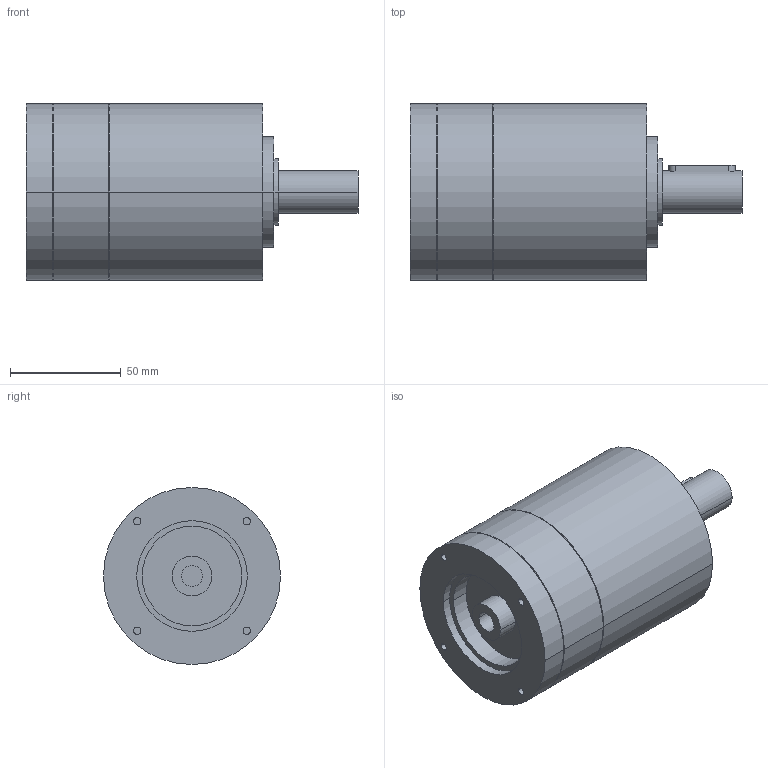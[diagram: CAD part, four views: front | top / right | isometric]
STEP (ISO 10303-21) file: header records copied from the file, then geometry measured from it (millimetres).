
FILE_DESCRIPTION(('CoCreate Modeling STEP Export'),'2;1');
FILE_NAME('GPR100_ig-3-4-5-6_19_B14_9.52_P22.stp','2014-08-26T10:09:52',(''),(''),'CoCreate Modeling STEP processor for AP214 (Solid Model)','CoCreate Modeling 16.00C 25-Feb-2009 (C) Parametric Technology GmbH','');
FILE_SCHEMA(('AUTOMOTIVE_DESIGN { 1 0 10303 214 1 1 1 1 }'));
Length unit declared in the file: millimetre
Products named in the file (2): GPR100_ig-3-4-5-6_19_B14_9.52_P22
Assembly tree (1 placements, depth 2):
  GPR100_ig-3-4-5-6_19_B14_9.52_P22
    GPR100_ig-3-4-5-6_19_B14_9.52_P22
Bounding box: 150 x 80 x 80 mm (x, y, z)
Volume: 536861.3 mm3; surface area: 45685.3 mm2
Topology: 1 solids, 1 shells, 68 faces, 162 edges, 112 vertices
Faces by surface type: cylinder 40, plane 22, cone 6
Entity records: 1691 total; most frequent: ORIENTED_EDGE 320, CARTESIAN_POINT 314, DIRECTION 224, EDGE_CURVE 160, VERTEX_POINT 112, AXIS2_PLACEMENT_3D 86, EDGE_LOOP 86, FACE_OUTER_BOUND 68
